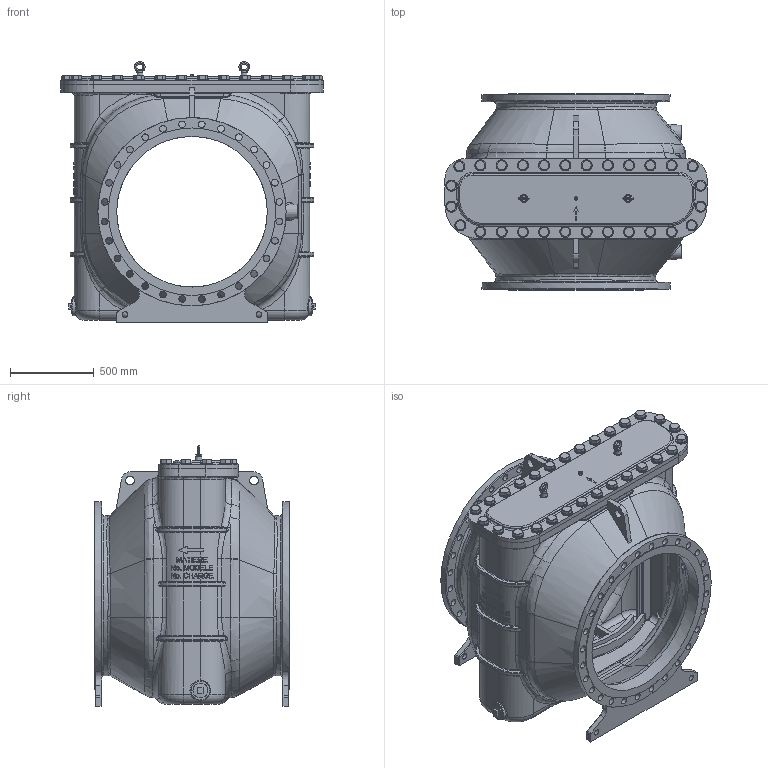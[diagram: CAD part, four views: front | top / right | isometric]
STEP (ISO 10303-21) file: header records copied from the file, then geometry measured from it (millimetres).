
FILE_DESCRIPTION(/* description */ ('AQUA 90-501 - DN 900 / PN 16'),/* implementation_level */ '2;1');
FILE_NAME(/* name */ 'C:\_VaultWorkspace\Designs\FAB900-16RF.stp',/* time_stamp */ '2019-09-04T09:00:44+02:00',/* author */ ('sylvain'),/* organization */ (''),/* preprocessor_version */ 'ST-DEVELOPER v18',/* originating_system */ 'Autodesk Inventor 2020',/* authorisation */ '');
FILE_SCHEMA (('AUTOMOTIVE_DESIGN { 1 0 10303 214 3 1 1 }'));
Products named in the file (10): *CTA90501G19002-KCO; 300574-02; 300571-01; ISO 7089 - 36 - 140 HV; ISO 4017 - M36 x 70; 57576-02; 57576-07; 57507; DIN 580 - M16 x 1.5; DIN EN 10242 Bouchon mâle plat T8 3
Assembly tree (65 placements, depth 3):
  *CTA90501G19002-KCO
    300574-02
    300571-01
    ISO 7089 - 36 - 140 HV  x28
    ISO 4017 - M36 x 70  x28
    DIN 580 - M16 x 1.5  x2
    57576-02
      57576-07
      57507
    DIN EN 10242 Bouchon mâle plat T8 3  x2
Bounding box: 1566 x 1170 x 1556.5 mm (x, y, z)
Volume: 237909798.8 mm3; surface area: 17266236.8 mm2
Topology: 64 solids, 64 shells, 2847 faces, 6999 edges, 4358 vertices
Faces by surface type: plane 939, cylinder 805, bspline 577, torus 243, cone 243, sphere 40
Full cylindrical faces by diameter (mm): 1.6 x1, 2.3 x1, 6.5 x1, 6.92 x1, 8 x1, 13.84 x2, 14 x1, 15 x2, 16 x2, 18.63 x1, 20.955 x1, 31.67 x28, 35 x4, 36 x28, 37 x28, 39 x28, 40 x56, 51.11 x28, 52 x2, 56.66 x2, 66 x28, 84.93 x2, 112 x2, 900 x2, 956 x2, 1001 x2, 1125 x2
Entity records: 87659 total; most frequent: CARTESIAN_POINT 34825, ORIENTED_EDGE 11130, DIRECTION 10017, EDGE_CURVE 5565, AXIS2_PLACEMENT_3D 3939, VERTEX_POINT 3460, EDGE_LOOP 2491, FACE_OUTER_BOUND 2191
